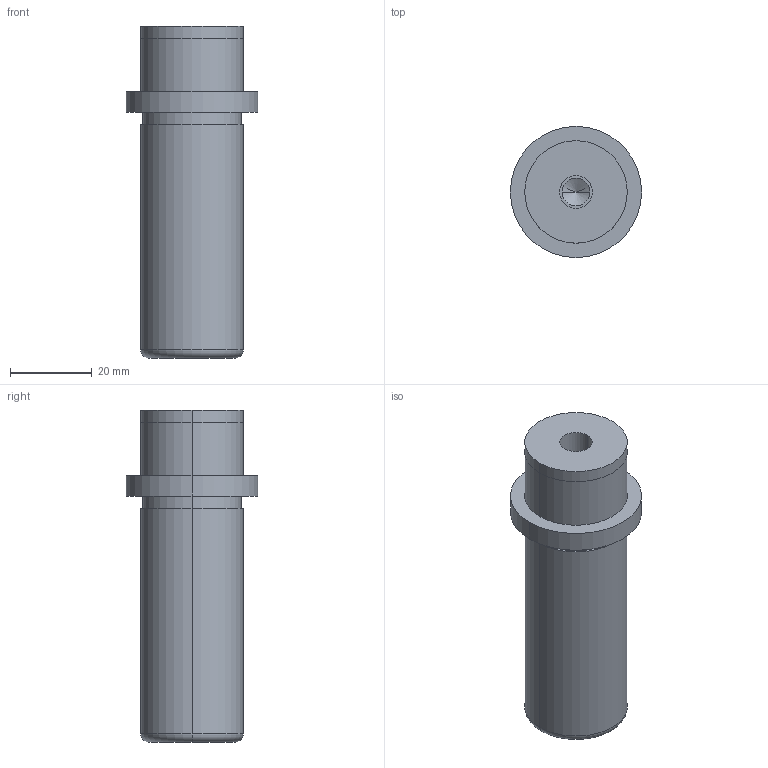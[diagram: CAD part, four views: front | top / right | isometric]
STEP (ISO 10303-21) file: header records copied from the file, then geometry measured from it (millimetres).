
FILE_DESCRIPTION(/* description */ (''),/* implementation_level */ '2;1');
FILE_NAME(/* name */ '3d_sgpw25-65_05244_r00.stp',/* time_stamp */ '2011-01-10T14:11:03+09:00',/* author */ ('MISUMI'),/* organization */ (''),/* preprocessor_version */ 'ST-DEVELOPER v11',/* originating_system */ 'UGS - NX 5.0',/* authorisation */ '');
FILE_SCHEMA (('CONFIG_CONTROL_DESIGN'));
Length unit declared in the file: millimetre
Products named in the file (1): 3d_sgpw25-65_05244_r00
Bounding box: 32 x 32 x 81 mm (x, y, z)
Volume: 39144.8 mm3; surface area: 9080 mm2
Topology: 1 solids, 1 shells, 31 faces, 64 edges, 38 vertices
Faces by surface type: cylinder 18, plane 7, cone 4, torus 2
Entity records: 890 total; most frequent: DIRECTION 162, CARTESIAN_POINT 130, ORIENTED_EDGE 120, AXIS2_PLACEMENT_3D 70, EDGE_CURVE 60, EDGE_LOOP 38, CIRCLE 38, VERTEX_POINT 38
